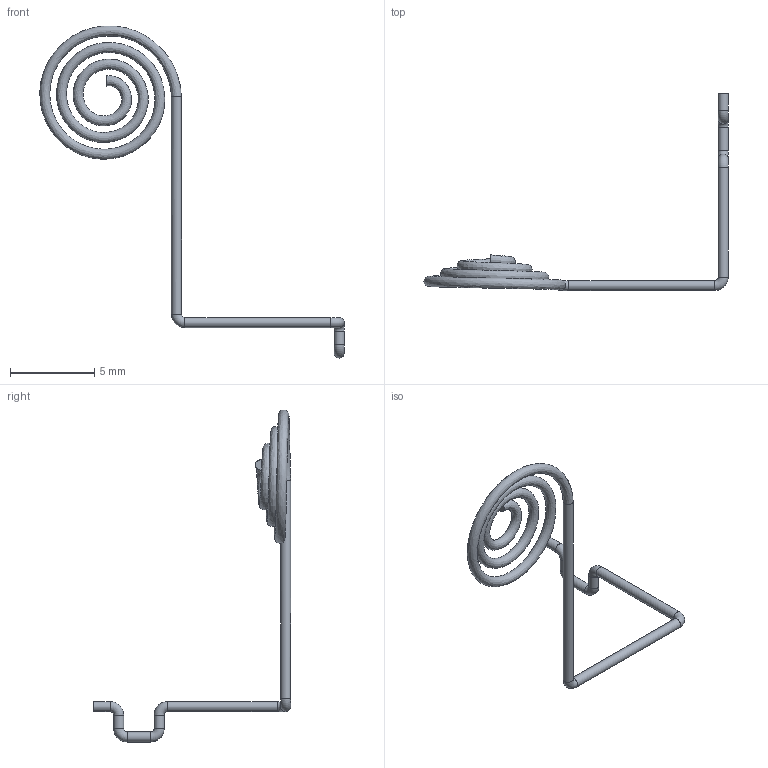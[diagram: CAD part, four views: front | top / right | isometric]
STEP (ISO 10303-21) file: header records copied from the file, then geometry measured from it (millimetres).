
FILE_DESCRIPTION(/* description */ (''),/* implementation_level */ '2;1');
FILE_NAME(/* name */ 'C:/Users/RileyStevenson/Downloads/Positive Coil v2.step',/* time_stamp */ '2022-02-17T22:41:53-06:00',/* author */ (''),/* organization */ (''),/* preprocessor_version */ 'ST-DEVELOPER v18.1',/* originating_system */ 'Autodesk Translation Framework v10.13.0.1454',/* authorisation */ '');
FILE_SCHEMA (('AUTOMOTIVE_DESIGN { 1 0 10303 214 3 1 1 }'));
Length unit declared in the file: millimetre
Products named in the file (1): Positive Coil
Bounding box: 18.05 x 11.7 x 19.69 mm (x, y, z)
Volume: 25.1 mm3; surface area: 167.8 mm2
Topology: 1 solids, 1 shells, 16 faces, 44 edges, 30 vertices
Faces by surface type: cylinder 7, torus 6, plane 2, bspline 1
Full cylindrical faces by diameter (mm): 0.6 x7
Entity records: 914 total; most frequent: CARTESIAN_POINT 437, DIRECTION 111, ORIENTED_EDGE 88, AXIS2_PLACEMENT_3D 52, EDGE_CURVE 44, CIRCLE 36, VERTEX_POINT 30, FACE_OUTER_BOUND 16
